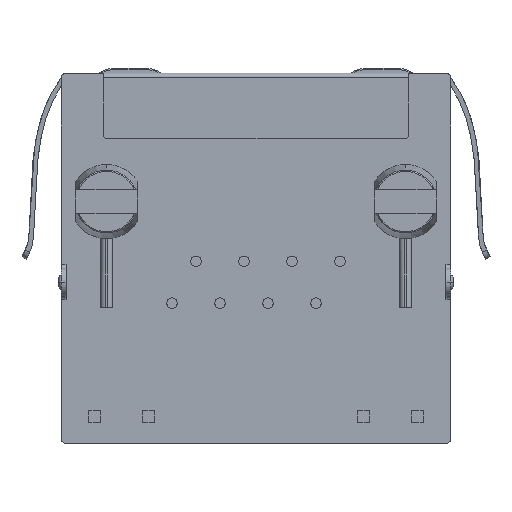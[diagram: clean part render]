
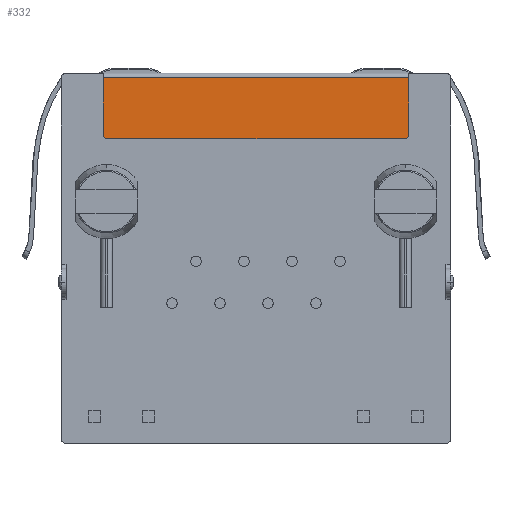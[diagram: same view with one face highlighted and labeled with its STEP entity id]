
A CAD part, front view. The second image highlights one B-rep face of the part: STEP entity #332.
In plain terms, the highlighted planar face has unit normal (0, -1, 0).
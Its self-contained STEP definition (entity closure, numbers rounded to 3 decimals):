
#267 = CIRCLE ( 'NONE', #11211, 0.2 ) ;
#332 = ADVANCED_FACE ( 'NONE', ( #8700 ), #7789, .T. ) ;
#399 = ORIENTED_EDGE ( 'NONE', *, *, #11234, .F. ) ;
#732 = EDGE_LOOP ( 'NONE', ( #10854, #399, #2810, #10889, #1071, #5003 ) ) ;
#889 = CARTESIAN_POINT ( 'NONE',  ( -6.5, -6.55, 15.55 ) ) ;
#1071 = ORIENTED_EDGE ( 'NONE', *, *, #11147, .T. ) ;
#1972 = CARTESIAN_POINT ( 'NONE',  ( -6.3, -6.55, 12.95 ) ) ;
#2345 = CARTESIAN_POINT ( 'NONE',  ( 6.5, -6.55, 15.75 ) ) ;
#2444 = VERTEX_POINT ( 'NONE', #4202 ) ;
#2528 = DIRECTION ( 'NONE',  ( 0., 0., -1. ) ) ;
#2626 = LINE ( 'NONE', #4334, #3996 ) ;
#2810 = ORIENTED_EDGE ( 'NONE', *, *, #4977, .T. ) ;
#3152 = EDGE_CURVE ( 'NONE', #8824, #8708, #9362, .T. ) ;
#3163 = AXIS2_PLACEMENT_3D ( 'NONE', #7269, #6416, #9896 ) ;
#3245 = DIRECTION ( 'NONE',  ( -1., 0., 0. ) ) ;
#3330 = DIRECTION ( 'NONE',  ( 0., 0., -1. ) ) ;
#3785 = AXIS2_PLACEMENT_3D ( 'NONE', #6763, #4362, #10360 ) ;
#3994 = DIRECTION ( 'NONE',  ( 1., 0., 0. ) ) ;
#3996 = VECTOR ( 'NONE', #3245, 1000. ) ;
#4202 = CARTESIAN_POINT ( 'NONE',  ( 6.5, -6.55, 13.15 ) ) ;
#4334 = CARTESIAN_POINT ( 'NONE',  ( -8.275, -6.55, 15.55 ) ) ;
#4362 = DIRECTION ( 'NONE',  ( 0., -1., 0. ) ) ;
#4977 = EDGE_CURVE ( 'NONE', #2444, #9495, #10062, .T. ) ;
#5003 = ORIENTED_EDGE ( 'NONE', *, *, #3152, .F. ) ;
#5582 = VERTEX_POINT ( 'NONE', #10275 ) ;
#5748 = VECTOR ( 'NONE', #3330, 1000. ) ;
#6078 = DIRECTION ( 'NONE',  ( 0., 1., 0. ) ) ;
#6172 = CARTESIAN_POINT ( 'NONE',  ( 6.5, -6.55, 15.55 ) ) ;
#6416 = DIRECTION ( 'NONE',  ( 0., 1., 0. ) ) ;
#6495 = EDGE_CURVE ( 'NONE', #8824, #5582, #9132, .T. ) ;
#6763 = CARTESIAN_POINT ( 'NONE',  ( -8.275, -6.55, 0. ) ) ;
#7269 = CARTESIAN_POINT ( 'NONE',  ( -6.3, -6.55, 13.15 ) ) ;
#7342 = EDGE_CURVE ( 'NONE', #9495, #9179, #2626, .T. ) ;
#7563 = LINE ( 'NONE', #7672, #5748 ) ;
#7672 = CARTESIAN_POINT ( 'NONE',  ( -6.5, -6.55, 13.15 ) ) ;
#7789 = PLANE ( 'NONE',  #3785 ) ;
#8208 = VECTOR ( 'NONE', #3994, 1000. ) ;
#8700 = FACE_OUTER_BOUND ( 'NONE', #732, .T. ) ;
#8708 = VERTEX_POINT ( 'NONE', #9405 ) ;
#8824 = VERTEX_POINT ( 'NONE', #1972 ) ;
#8952 = CARTESIAN_POINT ( 'NONE',  ( 6.3, -6.55, 13.15 ) ) ;
#9132 = LINE ( 'NONE', #9245, #8208 ) ;
#9179 = VERTEX_POINT ( 'NONE', #889 ) ;
#9245 = CARTESIAN_POINT ( 'NONE',  ( 6.3, -6.55, 12.95 ) ) ;
#9362 = CIRCLE ( 'NONE', #3163, 0.2 ) ;
#9405 = CARTESIAN_POINT ( 'NONE',  ( -6.5, -6.55, 13.15 ) ) ;
#9495 = VERTEX_POINT ( 'NONE', #6172 ) ;
#9896 = DIRECTION ( 'NONE',  ( 0., 0., -1. ) ) ;
#10062 = LINE ( 'NONE', #2345, #10568 ) ;
#10275 = CARTESIAN_POINT ( 'NONE',  ( 6.3, -6.55, 12.95 ) ) ;
#10360 = DIRECTION ( 'NONE',  ( 0., 0., -1. ) ) ;
#10568 = VECTOR ( 'NONE', #10972, 1000. ) ;
#10854 = ORIENTED_EDGE ( 'NONE', *, *, #6495, .T. ) ;
#10889 = ORIENTED_EDGE ( 'NONE', *, *, #7342, .T. ) ;
#10972 = DIRECTION ( 'NONE',  ( 0., 0., 1. ) ) ;
#11147 = EDGE_CURVE ( 'NONE', #9179, #8708, #7563, .T. ) ;
#11211 = AXIS2_PLACEMENT_3D ( 'NONE', #8952, #6078, #2528 ) ;
#11234 = EDGE_CURVE ( 'NONE', #2444, #5582, #267, .T. ) ;
